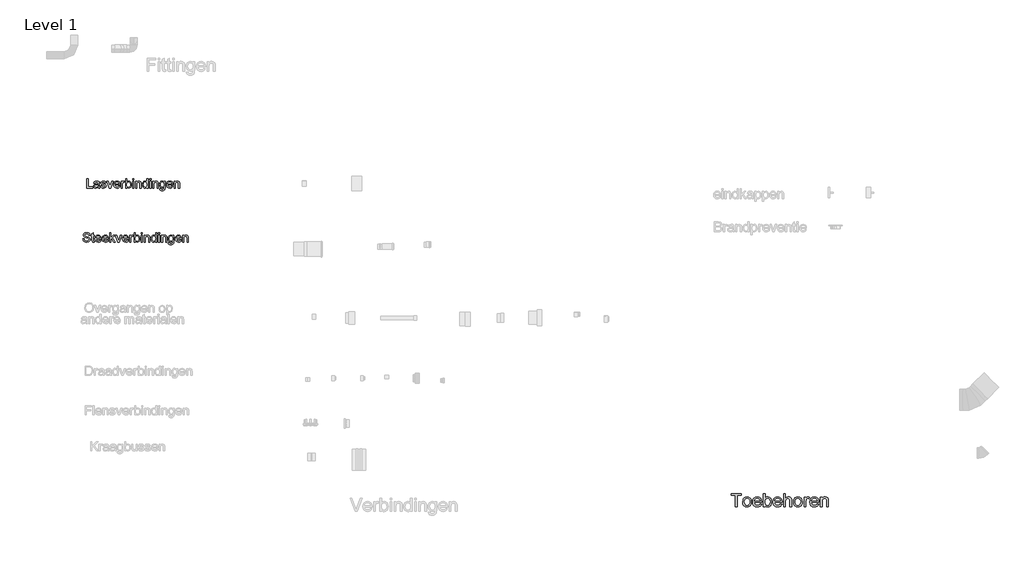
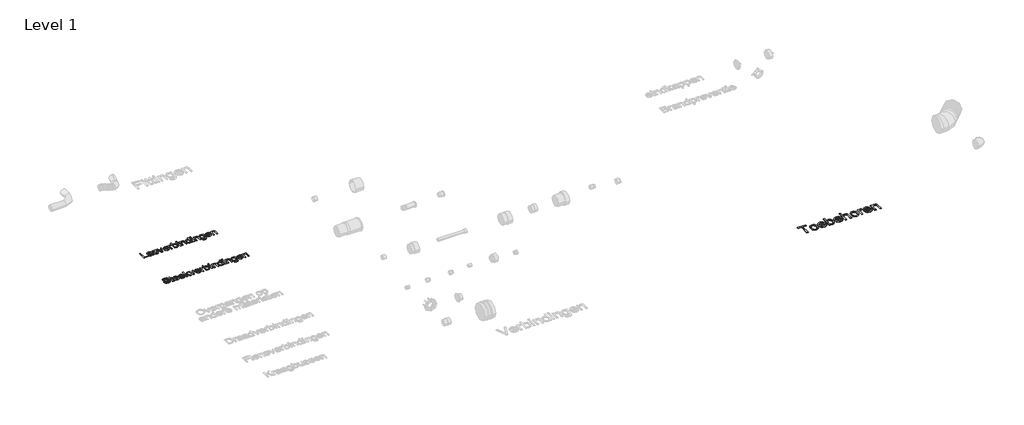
# One storey, part 6 of 9: 3 proxies.
"""IFC4 building model written with IfcOpenShell, lengths in millimetres."""

from ifc_helpers import new_model, si_unit, origin, origin_with_axes, place, context, project, spatial, polyline, outline, extrude, element, save

model = new_model("IFC4")

# Units and contexts
model_context = context("Model", 3, world=origin())
ifc_project = project(units=[si_unit("LENGTHUNIT", "METRE", prefix="MILLI")], contexts=[model_context])

# Site, building, storey
site = spatial("IfcSite", under=ifc_project)
building = spatial("IfcBuilding", under=site)
storey = spatial("IfcBuildingStorey", under=building, Name="Level 1", Elevation=0.0)

# Proxies
placement = place(None, origin())
element("IfcBuildingElementProxy", 1, Name="medium", ObjectType="medium", at=placement, inside=storey, context=model_context, shape_type="SweptSolid", body=[
    extrude(outline(polyline([(11516.964524, 10961.741006), (11516.964524, 11137.5395487), (11451.0400705, 11137.5395487), (11451.0400705, 11162.6536263), (11608.0030551, 11162.6536263), (11608.0030551, 11137.5395487), (11542.0786016, 11137.5395487), (11542.0786016, 10961.741006), (11516.964524, 10961.741006)])), origin_with_axes(), (0.0, 0.0, 1.0), 5.0),
    extrude(outline(polyline([(11626.8386132, 11035.5136087), (11632.271004, 11071.0877977), (11639.0614925, 11084.9109636), (11648.5681764, 11096.0915106), (11668.7035843, 11108.341981), (11692.8121177, 11112.4254712), (11719.1953881, 11107.4529329), (11740.2688951, 11092.535318), (11754.082864, 11068.8498488), (11758.6875203, 11037.5737479), (11756.6519066, 11012.202153), (11750.5450655, 10992.8883482), (11740.5448066, 10978.4244544), (11726.8289395, 10967.6025924), (11710.5378985, 10960.8519578), (11692.8121177, 10958.6017463), (11666.1100162, 10963.5558905), (11645.0610347, 10978.4183231), (11631.3942186, 11002.6004329), (11626.8386132, 11035.5136087)]), holes=[polyline([(11651.9526908, 11035.5626597), (11654.8589585, 11012.8336837), (11663.5777618, 10996.6407446), (11676.6988863, 10986.947054), (11692.8121177, 10983.7158238), (11708.8517727, 10986.9654481), (11721.9483717, 10996.714321), (11730.667175, 11013.1218579), (11733.5734428, 11036.3474746), (11730.6487809, 11058.4142629), (11721.8747953, 11074.3864729), (11708.7598022, 11084.0801634), (11692.8121177, 11087.3113936), (11676.6988863, 11084.0924262), (11663.5777618, 11074.4355238), (11654.8589585, 11058.2793729), (11651.9526908, 11035.5626597)])]), origin_with_axes(), (0.0, 0.0, 1.0), 5.0),
    extrude(outline(polyline([(11890.2421218, 11005.6906416), (11914.86569, 11002.551382), (11905.9936026, 10983.9978667), (11891.8362771, 10970.1287154), (11872.7125447, 10961.4834886), (11848.9412365, 10958.6017463), (11819.4738887, 10963.5742846), (11796.800095, 10978.4918995), (11782.3423326, 11002.3858351), (11777.5230785, 11034.2873354), (11782.3913835, 11067.2618249), (11796.9962987, 11091.9221813), (11819.3635241, 11107.2996487), (11847.5187594, 11112.4254712), (11874.7972094, 11107.3119114), (11896.5942176, 11091.9712322), (11910.8864331, 11067.3599268), (11915.6505049, 11034.4344882), (11915.5033521, 11027.6654595), (11802.637156, 11027.6654595), (11806.9842949, 11008.8666895), (11817.0826557, 10995.0465893), (11831.6569141, 10986.5485152), (11849.4317458, 10983.7158238), (11874.055314, 10988.9642736), (11883.203313, 10995.7700905), (11890.2421218, 11005.6906416)]), holes=[polyline([(11802.637156, 11052.779537), (11890.5364274, 11052.779537), (11887.1396503, 11066.0478143), (11880.4809862, 11075.5391698), (11865.8392828, 11084.3683377), (11847.4206576, 11087.3113936), (11830.4919544, 11084.9630802), (11816.4940445, 11077.91814), (11806.7635657, 11066.9368625), (11802.637156, 11052.779537)])]), origin_with_axes(), (0.0, 0.0, 1.0), 5.0),
    extrude(outline(polyline([(11965.87866, 10961.741006), (11940.7645825, 10961.741006), (11940.7645825, 11162.6536263), (11965.87866, 11162.6536263), (11965.87866, 11088.1452595), (11983.4634194, 11106.3554183), (11993.8560857, 11110.9079579), (12005.3156099, 11112.4254712), (12030.4787384, 11106.9562922), (12050.0010096, 11091.5788248), (12061.9939626, 11067.6664951), (12066.3349702, 11037.7209007), (12061.8406784, 11004.1945882), (12048.3578033, 10979.2521889), (12028.5718833, 10963.7643569), (12005.1684571, 10958.6017463), (11993.3318539, 10960.2664123), (11982.83802, 10965.2604104), (11973.6869553, 10973.5837405), (11965.87866, 10985.2364027), (11965.87866, 10961.741006)]), holes=[polyline([(11965.87866, 11036.5436783), (11967.5954426, 11015.59893), (11972.7457906, 11001.4232105), (11985.9037033, 10988.1426705), (12003.010216, 10983.7158238), (12017.5047667, 10986.9777108), (12029.8901272, 10996.7633719), (12038.3882013, 11013.0114933), (12041.2208926, 11035.6607615), (12038.5046972, 11058.6411235), (12030.356111, 11074.7053039), (12018.3570266, 11084.1598712), (12004.0893366, 11087.3113936), (11989.594786, 11084.0495066), (11977.2094255, 11074.2638455), (11968.7113514, 11058.3100297), (11965.87866, 11036.5436783)])]), origin_with_axes(), (0.0, 0.0, 1.0), 5.0),
    extrude(outline(polyline([(12197.8895716, 11005.6906416), (12222.5131398, 11002.551382), (12213.6410524, 10983.9978667), (12199.4837269, 10970.1287154), (12180.3599946, 10961.4834886), (12156.5886863, 10958.6017463), (12127.1213385, 10963.5742846), (12104.4475449, 10978.4918995), (12089.9897824, 11002.3858351), (12085.1705283, 11034.2873354), (12090.0388334, 11067.2618249), (12104.6437486, 11091.9221813), (12127.0109739, 11107.2996487), (12155.1662093, 11112.4254712), (12182.4446592, 11107.3119114), (12204.2416674, 11091.9712322), (12218.5338829, 11067.3599268), (12223.2979548, 11034.4344882), (12223.150802, 11027.6654595), (12110.2846058, 11027.6654595), (12114.6317448, 11008.8666895), (12124.7301055, 10995.0465893), (12139.3043639, 10986.5485152), (12157.0791956, 10983.7158238), (12181.7027638, 10988.9642736), (12190.8507628, 10995.7700905), (12197.8895716, 11005.6906416)]), holes=[polyline([(12110.2846058, 11052.779537), (12198.1838772, 11052.779537), (12194.7871001, 11066.0478143), (12188.128436, 11075.5391698), (12173.4867326, 11084.3683377), (12155.0681074, 11087.3113936), (12138.1394042, 11084.9630802), (12124.1414943, 11077.91814), (12114.4110156, 11066.9368625), (12110.2846058, 11052.779537)])]), origin_with_axes(), (0.0, 0.0, 1.0), 5.0),
    extrude(outline(polyline([(12248.4120323, 10961.741006), (12248.4120323, 11162.6536263), (12273.5261098, 11162.6536263), (12273.5261098, 11088.7829216), (12293.1096947, 11106.5148338), (12317.2304909, 11112.4254712), (12332.3994918, 11110.8129218), (12345.4347772, 11105.9752735), (12355.6986848, 11098.2926712), (12362.5535527, 11088.1452595), (12366.4163136, 11074.2025319), (12367.7039006, 11055.1339818), (12367.7039006, 10961.741006), (12342.5898231, 10961.741006), (12342.5898231, 11052.5342824), (12340.5909976, 11068.2551063), (12334.594521, 11079.021786), (12324.9314873, 11085.2389917), (12311.9329901, 11087.3113936), (12291.3561239, 11081.7195873), (12283.1033044, 11075.1344996), (12277.6218627, 11066.5628491), (12273.5261098, 11040.1243964), (12273.5261098, 10961.741006), (12248.4120323, 10961.741006)])), origin_with_axes(), (0.0, 0.0, 1.0), 5.0),
    extrude(outline(polyline([(12395.9572378, 11035.5136087), (12401.3896286, 11071.0877977), (12408.1801171, 11084.9109636), (12417.686801, 11096.0915106), (12437.8222089, 11108.341981), (12461.9307423, 11112.4254712), (12488.3140127, 11107.4529329), (12509.3875197, 11092.535318), (12523.2014886, 11068.8498488), (12527.8061449, 11037.5737479), (12525.7705312, 11012.202153), (12519.6636901, 10992.8883482), (12509.6634312, 10978.4244544), (12495.9475641, 10967.6025924), (12479.6565231, 10960.8519578), (12461.9307423, 10958.6017463), (12435.2286408, 10963.5558905), (12414.1796593, 10978.4183231), (12400.5128432, 11002.6004329), (12395.9572378, 11035.5136087)]), holes=[polyline([(12421.0713154, 11035.5626597), (12423.9775831, 11012.8336837), (12432.6963864, 10996.6407446), (12445.8175109, 10986.947054), (12461.9307423, 10983.7158238), (12477.9703973, 10986.9654481), (12491.0669963, 10996.714321), (12499.7857996, 11013.1218579), (12502.6920674, 11036.3474746), (12499.7674055, 11058.4142629), (12490.9934199, 11074.3864729), (12477.8784268, 11084.0801634), (12461.9307423, 11087.3113936), (12445.8175109, 11084.0924262), (12432.6963864, 11074.4355238), (12423.9775831, 11058.2793729), (12421.0713154, 11035.5626597)])]), origin_with_axes(), (0.0, 0.0, 1.0), 5.0),
    extrude(outline(polyline([(12556.0594821, 10961.741006), (12556.0594821, 11109.2862115), (12578.0343, 11109.2862115), (12578.0343, 11087.4585464), (12593.6324966, 11107.5694288), (12609.328795, 11112.4254712), (12621.8367829, 11110.4879593), (12634.5409744, 11104.6754238), (12626.1532649, 11082.1610457), (12608.4949292, 11087.3113936), (12594.2946842, 11082.3572494), (12585.2447871, 11068.6229883), (12581.1735597, 11039.2905305), (12581.1735597, 10961.741006), (12556.0594821, 10961.741006)])), origin_with_axes(), (0.0, 0.0, 1.0), 5.0),
    extrude(outline(polyline([(12753.5385371, 11005.6906416), (12778.1621054, 11002.551382), (12769.2900179, 10983.9978667), (12755.1326925, 10970.1287154), (12736.0089601, 10961.4834886), (12712.2376518, 10958.6017463), (12682.770304, 10963.5742846), (12660.0965104, 10978.4918995), (12645.638748, 11002.3858351), (12640.8194938, 11034.2873354), (12645.6877989, 11067.2618249), (12660.2927141, 11091.9221813), (12682.6599394, 11107.2996487), (12710.8151748, 11112.4254712), (12738.0936247, 11107.3119114), (12759.8906329, 11091.9712322), (12774.1828484, 11067.3599268), (12778.9469203, 11034.4344882), (12778.7997675, 11027.6654595), (12665.9335714, 11027.6654595), (12670.2807103, 11008.8666895), (12680.379071, 10995.0465893), (12694.9533294, 10986.5485152), (12712.7281611, 10983.7158238), (12737.3517294, 10988.9642736), (12746.4997283, 10995.7700905), (12753.5385371, 11005.6906416)]), holes=[polyline([(12665.9335714, 11052.779537), (12753.8328427, 11052.779537), (12750.4360656, 11066.0478143), (12743.7774015, 11075.5391698), (12729.1356981, 11084.3683377), (12710.7170729, 11087.3113936), (12693.7883698, 11084.9630802), (12679.7904598, 11077.91814), (12670.0599811, 11066.9368625), (12665.9335714, 11052.779537)])]), origin_with_axes(), (0.0, 0.0, 1.0), 5.0),
    extrude(outline(polyline([(12804.0609978, 10961.741006), (12804.0609978, 11109.2862115), (12829.1750753, 11109.2862115), (12829.1750753, 11088.6848198), (12837.90001, 11099.0713548), (12848.3785155, 11106.4903083), (12860.6105918, 11110.9416805), (12874.596239, 11112.4254712), (12898.312365, 11107.6430052), (12914.4991728, 11095.0859665), (12922.0284909, 11076.6182903), (12923.3528661, 11052.3380786), (12923.3528661, 10961.741006), (12898.2387886, 10961.741006), (12898.2387886, 11048.9535643), (12895.3447835, 11071.1736368), (12885.1176641, 11082.9213352), (12867.8762612, 11087.3113936), (12853.1671128, 11084.8465843), (12840.6284681, 11077.4521562), (12832.0384235, 11063.166072), (12829.1750753, 11040.0262945), (12829.1750753, 10961.741006), (12804.0609978, 10961.741006)])), origin_with_axes(), (0.0, 0.0, 1.0), 5.0),
])
element("IfcBuildingElementProxy", 2, Name="small", ObjectType="small", at=placement, inside=storey, context=model_context, shape_type="SweptSolid", body=[
    extrude(outline(polyline([(1704.9338092, 15785.1742315), (1704.9338092, 15925.8130657), (1722.5136635, 15925.8130657), (1722.5136635, 15802.7540858), (1792.8330806, 15802.7540858), (1792.8330806, 15785.1742315), (1704.9338092, 15785.1742315)])), origin_with_axes(), (0.0, 0.0, 1.0), 5.0),
    extrude(outline(polyline([(1876.3373884, 15798.3591222), (1859.2897368, 15786.4446507), (1840.4566312, 15782.9767497), (1825.7652637, 15785.0626406), (1814.9280733, 15791.3203134), (1808.2454968, 15800.8227053), (1806.0179713, 15812.6427538), (1809.3828653, 15826.5486932), (1818.2242959, 15836.6433752), (1830.5336275, 15842.4117649), (1845.7443217, 15845.0556101), (1876.2343815, 15851.098685), (1876.3373884, 15855.0129495), (1875.1270567, 15862.8586462), (1871.4960614, 15867.9918263), (1863.3756795, 15871.8030837), (1852.0620818, 15873.0735029), (1834.2762137, 15869.6914411), (1825.7953074, 15857.6911304), (1808.2154531, 15859.8886122), (1815.8208002, 15877.0564386), (1831.1345014, 15887.1167849), (1854.3282349, 15890.6533572), (1875.6335076, 15887.5288127), (1887.6681539, 15879.6831161), (1893.0588514, 15867.7514767), (1893.9172427, 15852.3691042), (1893.9172427, 15830.4972933), (1894.8099697, 15799.9557301), (1898.3122063, 15785.1742315), (1880.732352, 15785.1742315), (1876.3373884, 15798.3591222)]), holes=[polyline([(1876.3373884, 15833.5188308), (1847.9761392, 15828.1281333), (1832.8512841, 15825.2782741), (1826.0013213, 15820.6429609), (1823.5978256, 15813.8788373), (1828.8340127, 15804.3678615), (1844.1992173, 15800.556604), (1861.9850855, 15804.7627215), (1873.4531936, 15814.9432426), (1876.2343815, 15828.5401611), (1876.3373884, 15833.5188308)])]), origin_with_axes(), (0.0, 0.0, 1.0), 5.0),
    extrude(outline(polyline([(1911.497097, 15815.9389765), (1929.0769513, 15818.1364583), (1931.8495552, 15810.6169503), (1937.214501, 15805.0889102), (1955.8587605, 15800.556604), (1973.7819713, 15804.711218), (1979.6190323, 15814.4625434), (1973.7476357, 15822.3597436), (1955.6527466, 15827.3727489), (1929.1799582, 15835.9738299), (1917.626011, 15846.0170084), (1913.6945788, 15860.1976331), (1916.8534588, 15873.2966846), (1925.4717077, 15883.3055274), (1936.6479627, 15888.5073789), (1951.7728178, 15890.6533572), (1973.1639296, 15887.202624), (1986.7608481, 15877.8633265), (1992.803923, 15862.086094), (1975.2240687, 15859.8886122), (1968.6144556, 15869.5884341), (1953.1462439, 15873.0735029), (1936.321774, 15869.7429446), (1931.274433, 15861.983087), (1933.3689079, 15856.8670747), (1939.9270176, 15852.9871459), (1955.0690405, 15849.2445598), (1980.8722836, 15840.9696674), (1992.8554265, 15831.5960342), (1997.1988866, 15816.3166687), (1992.1000421, 15799.4921988), (1977.3872149, 15787.2858742), (1955.6184109, 15782.9767497), (1937.8926301, 15785.0540567), (1924.9566729, 15791.2859777), (1916.3212562, 15801.6038414), (1911.497097, 15815.9389765)])), origin_with_axes(), (0.0, 0.0, 1.0), 5.0),
    extrude(outline(polyline([(2042.3159345, 15785.1742315), (2005.9888137, 15888.4558754), (2024.5987376, 15888.4558754), (2046.6078911, 15826.5830289), (2053.2346721, 15805.7756232), (2059.7241105, 15825.4156167), (2081.8706066, 15888.4558754), (2100.4805305, 15888.4558754), (2064.5997732, 15785.1742315), (2042.3159345, 15785.1742315)])), origin_with_axes(), (0.0, 0.0, 1.0), 5.0),
    extrude(outline(polyline([(2188.1737879, 15815.9389765), (2205.4102857, 15813.7414947), (2199.1998245, 15800.754034), (2189.2896966, 15791.0456281), (2175.903084, 15784.9939693), (2159.2631682, 15782.9767497), (2138.6360247, 15786.4575265), (2122.7643692, 15796.899857), (2112.6439355, 15813.6256119), (2109.2704576, 15835.9566621), (2112.6782711, 15859.0388048), (2122.9017118, 15876.3010543), (2138.5587695, 15887.0652814), (2158.2674343, 15890.6533572), (2177.3623492, 15887.0738653), (2192.620255, 15876.3353899), (2202.6248058, 15859.1074761), (2205.9596561, 15836.0596691), (2205.8566492, 15831.321349), (2126.8503119, 15831.321349), (2129.8933091, 15818.16221), (2136.9621616, 15808.4881398), (2147.1641425, 15802.5394879), (2159.6065247, 15800.556604), (2176.8430225, 15804.2305189), (2188.1737879, 15815.9389765)]), holes=[polyline([(2126.8503119, 15848.9012033), (2188.3798018, 15848.9012033), (2181.340993, 15864.8329462), (2171.0918006, 15871.0133637), (2158.198763, 15873.0735029), (2146.3486708, 15871.4296835), (2136.5501338, 15866.4982254), (2129.7387987, 15858.8113311), (2126.8503119, 15848.9012033)])]), origin_with_axes(), (0.0, 0.0, 1.0), 5.0),
    extrude(outline(polyline([(2223.5395104, 15785.1742315), (2223.5395104, 15888.4558754), (2238.9218829, 15888.4558754), (2238.9218829, 15873.1765098), (2249.8406205, 15887.2541275), (2260.8280294, 15890.6533572), (2278.476555, 15885.228324), (2272.6051584, 15869.4682593), (2260.2443233, 15873.0735029), (2250.3041518, 15869.6056019), (2243.9692239, 15859.9916191), (2241.1193647, 15839.4588987), (2241.1193647, 15785.1742315), (2223.5395104, 15785.1742315)])), origin_with_axes(), (0.0, 0.0, 1.0), 5.0),
    extrude(outline(polyline([(2307.0438182, 15785.1742315), (2289.4639639, 15785.1742315), (2289.4639639, 15925.8130657), (2307.0438182, 15925.8130657), (2307.0438182, 15873.657209), (2319.3531498, 15886.4043201), (2334.6496831, 15890.6533572), (2352.263873, 15886.8249319), (2365.9294629, 15876.0607047), (2374.32453, 15859.3220739), (2377.3632353, 15838.3601578), (2374.2172311, 15814.8917391), (2364.7792185, 15797.4320596), (2350.9290745, 15786.5905772), (2334.5466762, 15782.9767497), (2318.9153702, 15787.6378146), (2307.0438182, 15801.6210092), (2307.0438182, 15785.1742315)]), holes=[polyline([(2307.0438182, 15837.5361021), (2308.2455661, 15822.8747784), (2311.8508096, 15812.9517747), (2321.0613485, 15803.6553967), (2333.0359074, 15800.556604), (2343.1820929, 15802.8399249), (2351.8518452, 15809.6898877), (2357.8004971, 15821.0635727), (2359.783381, 15836.9180604), (2357.8820443, 15853.0043138), (2352.1780339, 15864.2492401), (2343.7786748, 15870.8674372), (2333.7912918, 15873.0735029), (2323.6451064, 15870.790182), (2314.975354, 15863.9402192), (2309.0267022, 15852.7725481), (2307.0438182, 15837.5361021)])]), origin_with_axes(), (0.0, 0.0, 1.0), 5.0),
    extrude(outline(polyline([(2397.1405714, 15908.2332114), (2397.1405714, 15925.8130657), (2414.7204256, 15925.8130657), (2414.7204256, 15908.2332114), (2397.1405714, 15908.2332114)])), origin_with_axes(), (0.0, 0.0, 1.0), 5.0),
    extrude(outline(polyline([(2397.1405714, 15785.1742315), (2397.1405714, 15888.4558754), (2414.7204256, 15888.4558754), (2414.7204256, 15785.1742315), (2397.1405714, 15785.1742315)])), origin_with_axes(), (0.0, 0.0, 1.0), 5.0),
    extrude(outline(polyline([(2441.0902071, 15785.1742315), (2441.0902071, 15888.4558754), (2458.6700613, 15888.4558754), (2458.6700613, 15874.0349012), (2472.1124694, 15886.4987432), (2490.4648759, 15890.6533572), (2507.0661641, 15887.305631), (2518.3969295, 15878.5157039), (2523.6674522, 15865.5883306), (2524.5945149, 15848.5921824), (2524.5945149, 15785.1742315), (2507.0146606, 15785.1742315), (2507.0146606, 15846.2230223), (2504.9888571, 15861.7770731), (2497.8298734, 15870.0004619), (2485.7608915, 15873.0735029), (2475.4644875, 15871.3481363), (2466.6874363, 15866.1720367), (2460.6744051, 15856.1717778), (2458.6700613, 15839.9739335), (2458.6700613, 15785.1742315), (2441.0902071, 15785.1742315)])), origin_with_axes(), (0.0, 0.0, 1.0), 5.0),
    extrude(outline(polyline([(2612.4937862, 15785.1742315), (2612.4937862, 15801.7583518), (2600.8625838, 15787.6721502), (2584.7849144, 15782.9767497), (2573.4198133, 15784.6763645), (2563.0161104, 15789.775209), (2554.2090155, 15797.9170507), (2547.633738, 15808.7456572), (2542.1743691, 15836.7120465), (2547.2045423, 15864.6956036), (2553.4879668, 15875.7946034), (2562.2778939, 15883.9579048), (2572.9090704, 15888.9794941), (2584.7162431, 15890.6533572), (2600.9226712, 15885.8635336), (2612.4937862, 15873.4168594), (2612.4937862, 15925.8130657), (2630.0736405, 15925.8130657), (2630.0736405, 15785.1742315), (2612.4937862, 15785.1742315)]), holes=[polyline([(2559.7542234, 15836.7807178), (2561.7371074, 15820.8790185), (2567.6857592, 15809.5697129), (2576.3297599, 15802.8098812), (2586.3986901, 15800.556604), (2596.4633283, 15802.7068743), (2604.8884391, 15809.157685), (2610.5924495, 15820.0292111), (2612.4937862, 15835.4416273), (2610.5581138, 15852.291849), (2604.7510965, 15863.9745549), (2596.1113879, 15870.7987659), (2585.6776413, 15873.0735029), (2575.5057042, 15870.888897), (2567.1707244, 15864.3350792), (2561.6083487, 15853.077277), (2559.7542234, 15836.7807178)])]), origin_with_axes(), (0.0, 0.0, 1.0), 5.0),
    extrude(outline(polyline([(2656.4434219, 15908.2332114), (2656.4434219, 15925.8130657), (2674.0232762, 15925.8130657), (2674.0232762, 15908.2332114), (2656.4434219, 15908.2332114)])), origin_with_axes(), (0.0, 0.0, 1.0), 5.0),
    extrude(outline(polyline([(2656.4434219, 15785.1742315), (2656.4434219, 15888.4558754), (2674.0232762, 15888.4558754), (2674.0232762, 15785.1742315), (2656.4434219, 15785.1742315)])), origin_with_axes(), (0.0, 0.0, 1.0), 5.0),
    extrude(outline(polyline([(2700.3930576, 15785.1742315), (2700.3930576, 15888.4558754), (2717.9729119, 15888.4558754), (2717.9729119, 15874.0349012), (2731.41532, 15886.4987432), (2749.7677265, 15890.6533572), (2766.3690146, 15887.305631), (2777.6997801, 15878.5157039), (2782.9703028, 15865.5883306), (2783.8973654, 15848.5921824), (2783.8973654, 15785.1742315), (2766.3175112, 15785.1742315), (2766.3175112, 15846.2230223), (2764.2917076, 15861.7770731), (2757.132724, 15870.0004619), (2745.063742, 15873.0735029), (2734.7673381, 15871.3481363), (2725.9902869, 15866.1720367), (2719.9772556, 15856.1717778), (2717.9729119, 15839.9739335), (2717.9729119, 15785.1742315), (2700.3930576, 15785.1742315)])), origin_with_axes(), (0.0, 0.0, 1.0), 5.0),
    extrude(outline(polyline([(2803.6747015, 15776.3843044), (2821.2545558, 15774.1868226), (2826.9542742, 15764.9161963), (2844.0190936, 15761.0019319), (2862.0109758, 15765.4312311), (2870.594889, 15777.8607374), (2871.7966368, 15798.3591222), (2859.418634, 15788.4704542), (2844.3281145, 15785.1742315), (2826.2031818, 15789.0112407), (2812.6878104, 15800.5222683), (2804.2798674, 15817.3982417), (2801.4772197, 15837.3300882), (2806.5073929, 15864.5754288), (2812.6620586, 15875.635801), (2821.0657097, 15883.8548979), (2831.4307849, 15888.9537423), (2843.4697232, 15890.6533572), (2859.1525326, 15886.807764), (2871.7966368, 15875.2709847), (2871.7966368, 15888.4558754), (2889.3764911, 15888.4558754), (2889.3764911, 15799.2861848), (2888.1747432, 15778.697669), (2884.5694997, 15765.139378), (2878.3590385, 15756.1477289), (2869.3416376, 15749.2591386), (2857.7147272, 15744.8813428), (2843.6757371, 15743.4220776), (2827.3190905, 15745.4779248), (2814.4389287, 15751.6454665), (2806.1769122, 15761.9418704), (2803.6747015, 15776.3843044)]), holes=[polyline([(2819.057074, 15838.5318361), (2820.932659, 15822.4069551), (2826.5594141, 15811.3208312), (2835.0188606, 15804.8957721), (2845.3925198, 15802.7540858), (2855.6889237, 15804.8828963), (2864.1912897, 15811.2693277), (2869.8953, 15822.213817), (2871.7966368, 15838.0168013), (2869.8395046, 15853.2575392), (2863.968108, 15864.2320723), (2855.3412752, 15870.8631452), (2845.1178345, 15873.0735029), (2835.078948, 15870.8974809), (2826.6624211, 15864.3694149), (2820.9584108, 15853.5579762), (2819.057074, 15838.5318361)])]), origin_with_axes(), (0.0, 0.0, 1.0), 5.0),
    extrude(outline(polyline([(2988.0571575, 15815.9389765), (3005.2936552, 15813.7414947), (2999.083194, 15800.754034), (2989.1730662, 15791.0456281), (2975.7864535, 15784.9939693), (2959.1465378, 15782.9767497), (2938.5193943, 15786.4575265), (2922.6477387, 15796.899857), (2912.5273051, 15813.6256119), (2909.1538272, 15835.9566621), (2912.5616407, 15859.0388048), (2922.7850814, 15876.3010543), (2938.4421391, 15887.0652814), (2958.1508038, 15890.6533572), (2977.2457188, 15887.0738653), (2992.5036245, 15876.3353899), (3002.5081754, 15859.1074761), (3005.8430257, 15836.0596691), (3005.7400187, 15831.321349), (2926.7336814, 15831.321349), (2929.7766787, 15818.16221), (2936.8455312, 15808.4881398), (2947.0475121, 15802.5394879), (2959.4898943, 15800.556604), (2976.726392, 15804.2305189), (2988.0571575, 15815.9389765)]), holes=[polyline([(2926.7336814, 15848.9012033), (2988.2631714, 15848.9012033), (2981.2243626, 15864.8329462), (2970.9751702, 15871.0133637), (2958.0821325, 15873.0735029), (2946.2320403, 15871.4296835), (2936.4335034, 15866.4982254), (2929.6221682, 15858.8113311), (2926.7336814, 15848.9012033)])]), origin_with_axes(), (0.0, 0.0, 1.0), 5.0),
    extrude(outline(polyline([(3023.42288, 15785.1742315), (3023.42288, 15888.4558754), (3041.0027342, 15888.4558754), (3041.0027342, 15874.0349012), (3054.4451423, 15886.4987432), (3072.7975488, 15890.6533572), (3089.398837, 15887.305631), (3100.7296024, 15878.5157039), (3106.0001251, 15865.5883306), (3106.9271878, 15848.5921824), (3106.9271878, 15785.1742315), (3089.3473335, 15785.1742315), (3089.3473335, 15846.2230223), (3087.32153, 15861.7770731), (3080.1625463, 15870.0004619), (3068.0935644, 15873.0735029), (3057.7971604, 15871.3481363), (3049.0201092, 15866.1720367), (3043.007078, 15856.1717778), (3041.0027342, 15839.9739335), (3041.0027342, 15785.1742315), (3023.42288, 15785.1742315)])), origin_with_axes(), (0.0, 0.0, 1.0), 5.0),
])
element("IfcBuildingElementProxy", 3, Name="small", ObjectType="small", at=placement, inside=storey, context=model_context, shape_type="SweptSolid", body=[
    extrude(outline(polyline([(1643.8342868, 15015.9126742), (1661.4141411, 15015.9126742), (1667.0795238, 14998.3156521), (1680.9167919, 14987.1909006), (1701.9988828, 14982.9504474), (1720.3684571, 14986.160831), (1732.2314251, 14994.9850938), (1736.1285217, 15006.7793905), (1733.2099912, 15017.7496316), (1721.261184, 15025.7326709), (1695.6639548, 15032.4452911), (1668.1095934, 15041.1150434), (1653.1564165, 15054.1969272), (1648.2292504, 15071.6737745), (1654.3238287, 15091.5712853), (1661.8218769, 15099.7088351), (1672.1268648, 15105.6145674), (1698.1876253, 15110.4043909), (1725.9995041, 15105.3913856), (1736.6607244, 15099.2023842), (1744.5407567, 15090.6613905), (1749.5280103, 15080.3006073), (1751.5108942, 15068.652237), (1733.9310399, 15068.652237), (1730.7034886, 15079.141779), (1723.9737006, 15086.7127904), (1713.4584069, 15091.2966001), (1698.8743384, 15092.8245367), (1683.9469133, 15091.3137679), (1673.7063048, 15086.7814618), (1667.7834047, 15080.1117612), (1665.8091046, 15072.1888093), (1671.405816, 15059.9996525), (1700.1104219, 15050.1796558), (1731.2185234, 15041.355393), (1748.2318394, 15027.106097), (1753.708376, 15007.225754), (1752.1332279, 14996.3885636), (1747.4077837, 14986.1951666), (1739.7251814, 14977.4224073), (1729.278559, 14970.8471298), (1702.6855958, 14965.3705932), (1685.4619739, 14966.8470262), (1671.2856413, 14971.2763255), (1659.9935034, 14978.6756586), (1651.4224661, 14989.0621936), (1645.9201777, 15001.7148817), (1643.8342868, 15015.9126742)])), origin_with_axes(), (0.0, 0.0, 1.0), 5.0),
    extrude(outline(polyline([(1815.237866, 14982.2293987), (1817.4353478, 14967.0530401), (1804.2847927, 14965.3705932), (1789.5547976, 14968.2891237), (1782.2069679, 14975.9459742), (1780.0781574, 14995.8949886), (1780.0781574, 15053.2698645), (1766.8932667, 15053.2698645), (1766.8932667, 15070.8497188), (1780.0781574, 15070.8497188), (1780.0781574, 15095.9490811), (1797.6580117, 15106.2841126), (1797.6580117, 15070.8497188), (1815.237866, 15070.8497188), (1815.237866, 15053.2698645), (1797.6580117, 15053.2698645), (1797.6580117, 14996.4100234), (1798.5850743, 14987.345411), (1801.589444, 14984.1350275), (1807.5810154, 14982.9504474), (1815.237866, 14982.2293987)])), origin_with_axes(), (0.0, 0.0, 1.0), 5.0),
    extrude(outline(polyline([(1905.1286052, 14998.3328199), (1922.365103, 14996.1353381), (1916.1546418, 14983.1478774), (1906.2445139, 14973.4394716), (1892.8579013, 14967.3878128), (1876.2179855, 14965.3705932), (1855.590842, 14968.85137), (1839.7191865, 14979.2937004), (1829.5987528, 14996.0194553), (1826.2252749, 15018.3505056), (1829.6330884, 15041.4326482), (1839.8565291, 15058.6948977), (1855.5135868, 15069.4591249), (1875.2222516, 15073.0472006), (1894.3171665, 15069.4677088), (1909.5750723, 15058.7292333), (1919.5796231, 15041.5013195), (1922.9144734, 15018.4535125), (1922.8114665, 15013.7151924), (1843.8051292, 15013.7151924), (1846.8481264, 15000.5560534), (1853.9169789, 14990.8819832), (1864.1189598, 14984.9333314), (1876.561342, 14982.9504474), (1893.7978398, 14986.6243623), (1905.1286052, 14998.3328199)]), holes=[polyline([(1843.8051292, 15031.2950467), (1905.3346191, 15031.2950467), (1898.2958103, 15047.2267896), (1888.0466179, 15053.4072071), (1875.1535803, 15055.4673463), (1863.3034881, 15053.8235269), (1853.5049511, 15048.8920688), (1846.693616, 15041.2051745), (1843.8051292, 15031.2950467)])]), origin_with_axes(), (0.0, 0.0, 1.0), 5.0),
    extrude(outline(polyline([(2012.8052127, 14998.3328199), (2030.0417104, 14996.1353381), (2023.8312492, 14983.1478774), (2013.9211214, 14973.4394716), (2000.5345087, 14967.3878128), (1983.8945929, 14965.3705932), (1963.2674495, 14968.85137), (1947.3957939, 14979.2937004), (1937.2753602, 14996.0194553), (1933.9018823, 15018.3505056), (1937.3096959, 15041.4326482), (1947.5331365, 15058.6948977), (1963.1901943, 15069.4591249), (1982.898859, 15073.0472006), (2001.993774, 15069.4677088), (2017.2516797, 15058.7292333), (2027.2562306, 15041.5013195), (2030.5910809, 15018.4535125), (2030.4880739, 15013.7151924), (1951.4817366, 15013.7151924), (1954.5247339, 15000.5560534), (1961.5935864, 14990.8819832), (1971.7955673, 14984.9333314), (1984.2379495, 14982.9504474), (2001.4744472, 14986.6243623), (2012.8052127, 14998.3328199)]), holes=[polyline([(1951.4817366, 15031.2950467), (2013.0112266, 15031.2950467), (2005.9724177, 15047.2267896), (1995.7232254, 15053.4072071), (1982.8301877, 15055.4673463), (1970.9800955, 15053.8235269), (1961.1815586, 15048.8920688), (1954.3702234, 15041.2051745), (1951.4817366, 15031.2950467)])]), origin_with_axes(), (0.0, 0.0, 1.0), 5.0),
    extrude(outline(polyline([(2048.1709351, 14967.5680749), (2048.1709351, 15108.2069092), (2065.7507894, 15108.2069092), (2065.7507894, 15032.6341372), (2105.1681189, 15070.8497188), (2129.4777612, 15070.8497188), (2089.5797325, 15032.153438), (2131.6752429, 14967.5680749), (2111.1425225, 14967.5680749), (2076.9785479, 15019.9299456), (2065.7507894, 15009.0455436), (2065.7507894, 14967.5680749), (2048.1709351, 14967.5680749)])), origin_with_axes(), (0.0, 0.0, 1.0), 5.0),
    extrude(outline(polyline([(2172.3973273, 14967.5680749), (2136.0702065, 15070.8497188), (2154.6801304, 15070.8497188), (2176.6892839, 15008.9768723), (2183.3160649, 14988.1694667), (2189.8055033, 15007.8094601), (2211.9519994, 15070.8497188), (2230.5619233, 15070.8497188), (2194.681166, 14967.5680749), (2172.3973273, 14967.5680749)])), origin_with_axes(), (0.0, 0.0, 1.0), 5.0),
    extrude(outline(polyline([(2318.2551807, 14998.3328199), (2335.4916785, 14996.1353381), (2329.2812172, 14983.1478774), (2319.3710894, 14973.4394716), (2305.9844768, 14967.3878128), (2289.344561, 14965.3705932), (2268.7174175, 14968.85137), (2252.845762, 14979.2937004), (2242.7253283, 14996.0194553), (2239.3518504, 15018.3505056), (2242.7596639, 15041.4326482), (2252.9831046, 15058.6948977), (2268.6401623, 15069.4591249), (2288.3488271, 15073.0472006), (2307.443742, 15069.4677088), (2322.7016478, 15058.7292333), (2332.7061986, 15041.5013195), (2336.0410489, 15018.4535125), (2335.938042, 15013.7151924), (2256.9317047, 15013.7151924), (2259.9747019, 15000.5560534), (2267.0435544, 14990.8819832), (2277.2455353, 14984.9333314), (2289.6879175, 14982.9504474), (2306.9244153, 14986.6243623), (2318.2551807, 14998.3328199)]), holes=[polyline([(2256.9317047, 15031.2950467), (2318.4611946, 15031.2950467), (2311.4223858, 15047.2267896), (2301.1731934, 15053.4072071), (2288.2801557, 15055.4673463), (2276.4300635, 15053.8235269), (2266.6315266, 15048.8920688), (2259.8201915, 15041.2051745), (2256.9317047, 15031.2950467)])]), origin_with_axes(), (0.0, 0.0, 1.0), 5.0),
    extrude(outline(polyline([(2353.6209032, 14967.5680749), (2353.6209032, 15070.8497188), (2369.0032757, 15070.8497188), (2369.0032757, 15055.5703533), (2379.9220133, 15069.647971), (2390.9094222, 15073.0472006), (2408.5579478, 15067.6221674), (2402.6865512, 15051.8621028), (2390.3257161, 15055.4673463), (2380.3855446, 15051.9994454), (2374.0506167, 15042.3854626), (2371.2007575, 15021.8527421), (2371.2007575, 14967.5680749), (2353.6209032, 14967.5680749)])), origin_with_axes(), (0.0, 0.0, 1.0), 5.0),
    extrude(outline(polyline([(2437.125211, 14967.5680749), (2419.5453567, 14967.5680749), (2419.5453567, 15108.2069092), (2437.125211, 15108.2069092), (2437.125211, 15056.0510524), (2449.4345426, 15068.7981636), (2464.7310759, 15073.0472006), (2482.3452658, 15069.2187753), (2496.0108557, 15058.4545481), (2504.4059228, 15041.7159173), (2507.4446281, 15020.7540013), (2504.2986239, 14997.2855825), (2494.8606113, 14979.825903), (2481.0104673, 14968.9844206), (2464.628069, 14965.3705932), (2448.996763, 14970.031658), (2437.125211, 14984.0148527), (2437.125211, 14967.5680749)]), holes=[polyline([(2437.125211, 15019.9299456), (2438.3269588, 15005.2686218), (2441.9322024, 14995.3456181), (2451.1427413, 14986.0492401), (2463.1173002, 14982.9504474), (2473.2634857, 14985.2337683), (2481.933238, 14992.0837311), (2487.8818899, 15003.4574161), (2489.8647738, 15019.3119038), (2487.963437, 15035.3981572), (2482.2594267, 15046.6430835), (2473.8600676, 15053.2612806), (2463.8726846, 15055.4673463), (2453.7264992, 15053.1840254), (2445.0567468, 15046.3340627), (2439.108095, 15035.1663916), (2437.125211, 15019.9299456)])]), origin_with_axes(), (0.0, 0.0, 1.0), 5.0),
    extrude(outline(polyline([(2527.2219642, 15090.6270549), (2527.2219642, 15108.2069092), (2544.8018184, 15108.2069092), (2544.8018184, 15090.6270549), (2527.2219642, 15090.6270549)])), origin_with_axes(), (0.0, 0.0, 1.0), 5.0),
    extrude(outline(polyline([(2527.2219642, 14967.5680749), (2527.2219642, 15070.8497188), (2544.8018184, 15070.8497188), (2544.8018184, 14967.5680749), (2527.2219642, 14967.5680749)])), origin_with_axes(), (0.0, 0.0, 1.0), 5.0),
    extrude(outline(polyline([(2571.1715999, 14967.5680749), (2571.1715999, 15070.8497188), (2588.7514541, 15070.8497188), (2588.7514541, 15056.4287446), (2602.1938622, 15068.8925866), (2620.5462687, 15073.0472006), (2637.1475569, 15069.6994744), (2648.4783223, 15060.9095473), (2653.748845, 15047.982174), (2654.6759077, 15030.9860258), (2654.6759077, 14967.5680749), (2637.0960534, 14967.5680749), (2637.0960534, 15028.6168658), (2635.0702499, 15044.1709165), (2627.9112662, 15052.3943054), (2615.8422843, 15055.4673463), (2605.5458803, 15053.7419798), (2596.7688291, 15048.5658801), (2590.7557979, 15038.5656212), (2588.7514541, 15022.3677769), (2588.7514541, 14967.5680749), (2571.1715999, 14967.5680749)])), origin_with_axes(), (0.0, 0.0, 1.0), 5.0),
    extrude(outline(polyline([(2742.575179, 14967.5680749), (2742.575179, 14984.1521953), (2730.9439766, 14970.0659937), (2714.8663072, 14965.3705932), (2703.5012061, 14967.070208), (2693.0975032, 14972.1690524), (2684.2904083, 14980.3108941), (2677.7151307, 14991.1395006), (2672.2557619, 15019.1058899), (2677.2859351, 15047.089447), (2683.5693596, 15058.1884468), (2692.3592867, 15066.3517483), (2702.9904632, 15071.3733375), (2714.7976359, 15073.0472006), (2731.004064, 15068.257377), (2742.575179, 15055.8107029), (2742.575179, 15108.2069092), (2760.1550333, 15108.2069092), (2760.1550333, 14967.5680749), (2742.575179, 14967.5680749)]), holes=[polyline([(2689.8356162, 15019.1745612), (2691.8185002, 15003.272862), (2697.767152, 14991.9635563), (2706.4111526, 14985.2037247), (2716.4800829, 14982.9504474), (2726.5447211, 14985.1007177), (2734.9698319, 14991.5515285), (2740.6738423, 15002.4230546), (2742.575179, 15017.8354708), (2740.6395066, 15034.6856924), (2734.8324893, 15046.3683983), (2726.1927807, 15053.1926093), (2715.7590341, 15055.4673463), (2705.587097, 15053.2827404), (2697.2521172, 15046.7289227), (2691.6897415, 15035.4711205), (2689.8356162, 15019.1745612)])]), origin_with_axes(), (0.0, 0.0, 1.0), 5.0),
    extrude(outline(polyline([(2786.5248147, 15090.6270549), (2786.5248147, 15108.2069092), (2804.104669, 15108.2069092), (2804.104669, 15090.6270549), (2786.5248147, 15090.6270549)])), origin_with_axes(), (0.0, 0.0, 1.0), 5.0),
    extrude(outline(polyline([(2786.5248147, 14967.5680749), (2786.5248147, 15070.8497188), (2804.104669, 15070.8497188), (2804.104669, 14967.5680749), (2786.5248147, 14967.5680749)])), origin_with_axes(), (0.0, 0.0, 1.0), 5.0),
    extrude(outline(polyline([(2830.4744504, 14967.5680749), (2830.4744504, 15070.8497188), (2848.0543047, 15070.8497188), (2848.0543047, 15056.4287446), (2861.4967128, 15068.8925866), (2879.8491193, 15073.0472006), (2896.4504074, 15069.6994744), (2907.7811729, 15060.9095473), (2913.0516956, 15047.982174), (2913.9787582, 15030.9860258), (2913.9787582, 14967.5680749), (2896.398904, 14967.5680749), (2896.398904, 15028.6168658), (2894.3731004, 15044.1709165), (2887.2141168, 15052.3943054), (2875.1451348, 15055.4673463), (2864.8487309, 15053.7419798), (2856.0716797, 15048.5658801), (2850.0586484, 15038.5656212), (2848.0543047, 15022.3677769), (2848.0543047, 14967.5680749), (2830.4744504, 14967.5680749)])), origin_with_axes(), (0.0, 0.0, 1.0), 5.0),
    extrude(outline(polyline([(2933.7560943, 14958.7781478), (2951.3359486, 14956.580666), (2957.035667, 14947.3100397), (2974.1004864, 14943.3957753), (2992.0923685, 14947.8250745), (3000.6762818, 14960.2545809), (3001.8780296, 14980.7529656), (2989.5000268, 14970.8642976), (2974.4095073, 14967.5680749), (2956.2845745, 14971.4050842), (2942.7692032, 14982.9161118), (2934.3612602, 14999.7920852), (2931.5586125, 15019.7239317), (2936.5887857, 15046.9692722), (2942.7434514, 15058.0296444), (2951.1471025, 15066.2487413), (2961.5121777, 15071.3475858), (2973.551116, 15073.0472006), (2989.2339254, 15069.2016075), (3001.8780296, 15057.6648281), (3001.8780296, 15070.8497188), (3019.4578839, 15070.8497188), (3019.4578839, 14981.6800283), (3018.256136, 14961.0915124), (3014.6508925, 14947.5332215), (3008.4404313, 14938.5415724), (2999.4230304, 14931.652982), (2987.79612, 14927.2751863), (2973.7571299, 14925.815921), (2957.4004833, 14927.8717683), (2944.5203215, 14934.0393099), (2936.258305, 14944.3357138), (2933.7560943, 14958.7781478)]), holes=[polyline([(2949.1384668, 15020.9256795), (2951.0140518, 15004.8007985), (2956.6408069, 14993.7146746), (2965.1002534, 14987.2896156), (2975.4739126, 14985.1479292), (2985.7703165, 14987.2767397), (2994.2726825, 14993.6631711), (2999.9766928, 15004.6076605), (3001.8780296, 15020.4106447), (2999.9208974, 15035.6513827), (2994.0495008, 15046.6259157), (2985.422668, 15053.2569887), (2975.1992273, 15055.4673463), (2965.1603408, 15053.2913243), (2956.7438139, 15046.7632583), (2951.0398036, 15035.9518196), (2949.1384668, 15020.9256795)])]), origin_with_axes(), (0.0, 0.0, 1.0), 5.0),
    extrude(outline(polyline([(3118.1385503, 14998.3328199), (3135.375048, 14996.1353381), (3129.1645868, 14983.1478774), (3119.254459, 14973.4394716), (3105.8678463, 14967.3878128), (3089.2279306, 14965.3705932), (3068.6007871, 14968.85137), (3052.7291315, 14979.2937004), (3042.6086979, 14996.0194553), (3039.23522, 15018.3505056), (3042.6430335, 15041.4326482), (3052.8664742, 15058.6948977), (3068.5235319, 15069.4591249), (3088.2321966, 15073.0472006), (3107.3271116, 15069.4677088), (3122.5850173, 15058.7292333), (3132.5895682, 15041.5013195), (3135.9244185, 15018.4535125), (3135.8214115, 15013.7151924), (3056.8150742, 15013.7151924), (3059.8580715, 15000.5560534), (3066.926924, 14990.8819832), (3077.1289049, 14984.9333314), (3089.5712871, 14982.9504474), (3106.8077848, 14986.6243623), (3118.1385503, 14998.3328199)]), holes=[polyline([(3056.8150742, 15031.2950467), (3118.3445642, 15031.2950467), (3111.3057554, 15047.2267896), (3101.056563, 15053.4072071), (3088.1635253, 15055.4673463), (3076.3134331, 15053.8235269), (3066.5148962, 15048.8920688), (3059.703561, 15041.2051745), (3056.8150742, 15031.2950467)])]), origin_with_axes(), (0.0, 0.0, 1.0), 5.0),
    extrude(outline(polyline([(3153.5042728, 14967.5680749), (3153.5042728, 15070.8497188), (3171.084127, 15070.8497188), (3171.084127, 15056.4287446), (3184.5265351, 15068.8925866), (3202.8789416, 15073.0472006), (3219.4802298, 15069.6994744), (3230.8109952, 15060.9095473), (3236.0815179, 15047.982174), (3237.0085806, 15030.9860258), (3237.0085806, 14967.5680749), (3219.4287263, 14967.5680749), (3219.4287263, 15028.6168658), (3217.4029228, 15044.1709165), (3210.2439391, 15052.3943054), (3198.1749572, 15055.4673463), (3187.8785532, 15053.7419798), (3179.101502, 15048.5658801), (3173.0884708, 15038.5656212), (3171.084127, 15022.3677769), (3171.084127, 14967.5680749), (3153.5042728, 14967.5680749)])), origin_with_axes(), (0.0, 0.0, 1.0), 5.0),
])

save(model, "model.ifc")
